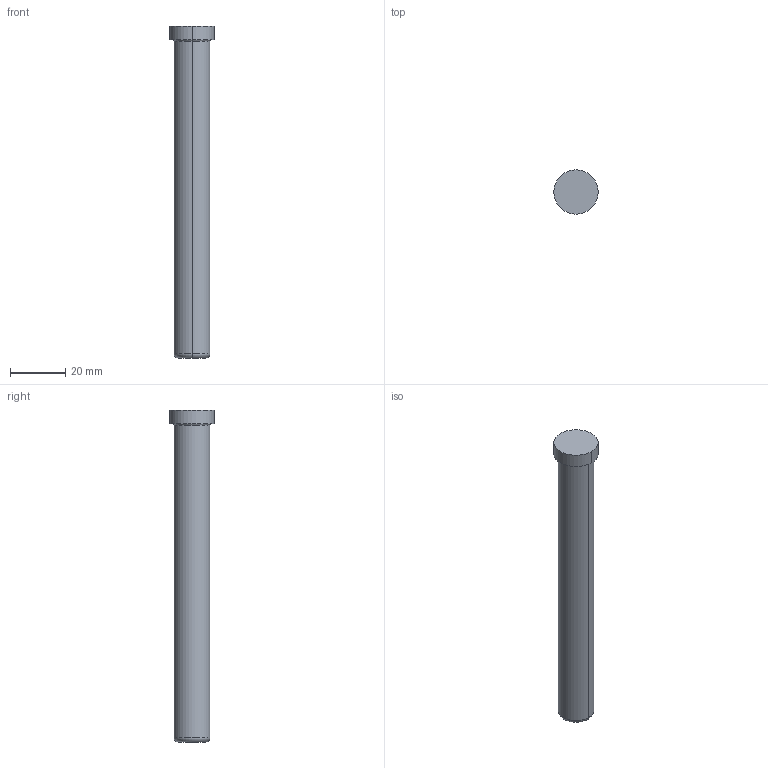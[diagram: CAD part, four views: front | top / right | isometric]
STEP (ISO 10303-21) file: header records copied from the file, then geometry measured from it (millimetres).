
FILE_DESCRIPTION(/* description */ (''),/* implementation_level */ '2;1');
FILE_NAME(/* name */ '3d_sgph13-120_00270_r00.stp',/* time_stamp */ '2011-01-10T14:11:07+09:00',/* author */ ('MISUMI'),/* organization */ (''),/* preprocessor_version */ 'ST-DEVELOPER v11',/* originating_system */ 'UGS - NX 5.0',/* authorisation */ '');
FILE_SCHEMA (('CONFIG_CONTROL_DESIGN'));
Length unit declared in the file: millimetre
Products named in the file (1): 3d_sgph13-120_00270_r00
Bounding box: 16 x 16 x 120 mm (x, y, z)
Volume: 16253 mm3; surface area: 5314.2 mm2
Topology: 1 solids, 1 shells, 11 faces, 20 edges, 12 vertices
Faces by surface type: cylinder 4, torus 4, plane 3
Entity records: 364 total; most frequent: DIRECTION 60, CARTESIAN_POINT 44, ORIENTED_EDGE 40, AXIS2_PLACEMENT_3D 28, EDGE_CURVE 20, CIRCLE 16, EDGE_LOOP 12, VERTEX_POINT 12
